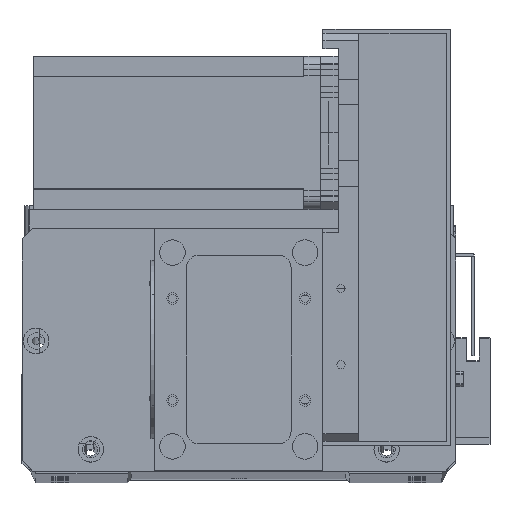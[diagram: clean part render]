
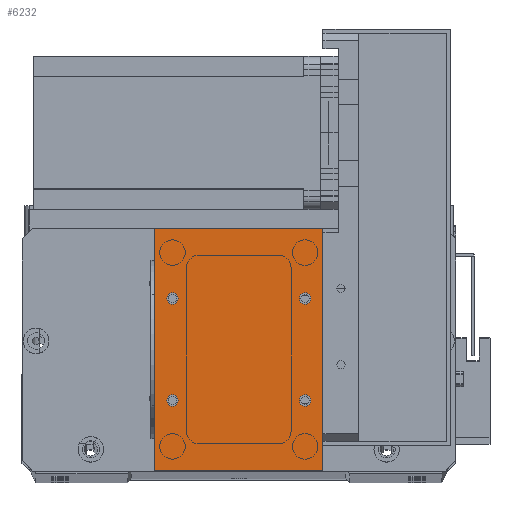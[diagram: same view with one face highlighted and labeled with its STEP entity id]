
A CAD part, top view. The second image highlights one B-rep face of the part: STEP entity #6232.
In plain terms, the highlighted planar face has unit normal (0, 0, 1).
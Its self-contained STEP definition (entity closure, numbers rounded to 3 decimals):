
#6 = VECTOR ( 'NONE', #32777, 1000. ) ;
#486 = EDGE_CURVE ( 'NONE', #4276, #13556, #23612, .T. ) ;
#727 = ORIENTED_EDGE ( 'NONE', *, *, #31625, .F. ) ;
#1019 = CARTESIAN_POINT ( 'NONE',  ( 66., 0., 2. ) ) ;
#1243 = AXIS2_PLACEMENT_3D ( 'NONE', #30220, #14865, #32776 ) ;
#1436 = ORIENTED_EDGE ( 'NONE', *, *, #11743, .F. ) ;
#1953 = VERTEX_POINT ( 'NONE', #3938 ) ;
#2109 = DIRECTION ( 'NONE',  ( -1., 0., 0. ) ) ;
#2160 = VERTEX_POINT ( 'NONE', #28035 ) ;
#2195 = DIRECTION ( 'NONE',  ( 0., 0., 1. ) ) ;
#2208 = DIRECTION ( 'NONE',  ( 0., 0., 1. ) ) ;
#2419 = CARTESIAN_POINT ( 'NONE',  ( 0., 0., 2. ) ) ;
#3750 = VECTOR ( 'NONE', #8700, 1000. ) ;
#3938 = CARTESIAN_POINT ( 'NONE',  ( 4.75, 67.5, 2. ) ) ;
#4276 = VERTEX_POINT ( 'NONE', #20052 ) ;
#4865 = FACE_OUTER_BOUND ( 'NONE', #15801, .T. ) ;
#5180 = CARTESIAN_POINT ( 'NONE',  ( 66., 0., 2. ) ) ;
#5561 = AXIS2_PLACEMENT_3D ( 'NONE', #23725, #8396, #26328 ) ;
#5643 = ORIENTED_EDGE ( 'NONE', *, *, #23704, .F. ) ;
#6232 = ADVANCED_FACE ( 'NONE', ( #31394, #10957, #24574, #17738, #4865 ), #28135, .F. ) ;
#6913 = CARTESIAN_POINT ( 'NONE',  ( 7., 67.5, 2. ) ) ;
#7682 = LINE ( 'NONE', #27635, #6 ) ;
#7706 = EDGE_CURVE ( 'NONE', #22092, #32349, #7682, .T. ) ;
#7904 = CIRCLE ( 'NONE', #9744, 2.25 ) ;
#8329 = ORIENTED_EDGE ( 'NONE', *, *, #32549, .F. ) ;
#8396 = DIRECTION ( 'NONE',  ( 0., 0., 1. ) ) ;
#8700 = DIRECTION ( 'NONE',  ( 0., 1., 0. ) ) ;
#8885 = CARTESIAN_POINT ( 'NONE',  ( 7., 27.5, 2. ) ) ;
#8931 = CARTESIAN_POINT ( 'NONE',  ( 59., 67.5, 2. ) ) ;
#9040 = CIRCLE ( 'NONE', #31813, 2.25 ) ;
#9076 = DIRECTION ( 'NONE',  ( 0., -1., 0. ) ) ;
#9555 = DIRECTION ( 'NONE',  ( 1., 0., 0. ) ) ;
#9744 = AXIS2_PLACEMENT_3D ( 'NONE', #8885, #26816, #11448 ) ;
#9836 = ORIENTED_EDGE ( 'NONE', *, *, #486, .F. ) ;
#9883 = AXIS2_PLACEMENT_3D ( 'NONE', #17574, #2195, #20150 ) ;
#10774 = CARTESIAN_POINT ( 'NONE',  ( 61.25, 27.5, 2. ) ) ;
#10957 = FACE_BOUND ( 'NONE', #13059, .T. ) ;
#11122 = VERTEX_POINT ( 'NONE', #32818 ) ;
#11187 = DIRECTION ( 'NONE',  ( 1., 0., 0. ) ) ;
#11448 = DIRECTION ( 'NONE',  ( 1., 0., 0. ) ) ;
#11489 = DIRECTION ( 'NONE',  ( 1., 0., 0. ) ) ;
#11743 = EDGE_CURVE ( 'NONE', #29201, #2160, #27178, .T. ) ;
#11981 = CARTESIAN_POINT ( 'NONE',  ( 0., 0., 2. ) ) ;
#12331 = AXIS2_PLACEMENT_3D ( 'NONE', #17594, #2208, #20164 ) ;
#13059 = EDGE_LOOP ( 'NONE', ( #1436, #8329 ) ) ;
#13484 = CARTESIAN_POINT ( 'NONE',  ( 9.25, 67.5, 2. ) ) ;
#13556 = VERTEX_POINT ( 'NONE', #10774 ) ;
#14283 = CARTESIAN_POINT ( 'NONE',  ( 0., 95., 2. ) ) ;
#14346 = EDGE_CURVE ( 'NONE', #32349, #17463, #15840, .T. ) ;
#14473 = VERTEX_POINT ( 'NONE', #14283 ) ;
#14865 = DIRECTION ( 'NONE',  ( 0., 0., 1. ) ) ;
#15516 = CARTESIAN_POINT ( 'NONE',  ( 66., 95., 2. ) ) ;
#15801 = EDGE_LOOP ( 'NONE', ( #19715, #30863, #22805, #24426 ) ) ;
#15840 = LINE ( 'NONE', #1019, #3750 ) ;
#16540 = ORIENTED_EDGE ( 'NONE', *, *, #18014, .F. ) ;
#17463 = VERTEX_POINT ( 'NONE', #15516 ) ;
#17574 = CARTESIAN_POINT ( 'NONE',  ( 7., 67.5, 2. ) ) ;
#17594 = CARTESIAN_POINT ( 'NONE',  ( 7., 27.5, 2. ) ) ;
#17738 = FACE_BOUND ( 'NONE', #29796, .T. ) ;
#18014 = EDGE_CURVE ( 'NONE', #11122, #19038, #25225, .T. ) ;
#18929 = CARTESIAN_POINT ( 'NONE',  ( 4.75, 27.5, 2. ) ) ;
#19038 = VERTEX_POINT ( 'NONE', #18929 ) ;
#19661 = AXIS2_PLACEMENT_3D ( 'NONE', #2419, #30609, #33279 ) ;
#19715 = ORIENTED_EDGE ( 'NONE', *, *, #30253, .T. ) ;
#20052 = CARTESIAN_POINT ( 'NONE',  ( 56.75, 27.5, 2. ) ) ;
#20150 = DIRECTION ( 'NONE',  ( 1., 0., 0. ) ) ;
#20164 = DIRECTION ( 'NONE',  ( 1., 0., 0. ) ) ;
#20169 = VERTEX_POINT ( 'NONE', #13484 ) ;
#20985 = VECTOR ( 'NONE', #2109, 1000. ) ;
#21156 = LINE ( 'NONE', #27001, #33204 ) ;
#21577 = EDGE_CURVE ( 'NONE', #17463, #14473, #27821, .T. ) ;
#22092 = VERTEX_POINT ( 'NONE', #11981 ) ;
#22356 = EDGE_LOOP ( 'NONE', ( #28706, #727 ) ) ;
#22805 = ORIENTED_EDGE ( 'NONE', *, *, #14346, .T. ) ;
#23612 = CIRCLE ( 'NONE', #30607, 2.25 ) ;
#23704 = EDGE_CURVE ( 'NONE', #19038, #11122, #7904, .T. ) ;
#23725 = CARTESIAN_POINT ( 'NONE',  ( 59., 27.5, 2. ) ) ;
#24056 = EDGE_LOOP ( 'NONE', ( #26881, #9836 ) ) ;
#24426 = ORIENTED_EDGE ( 'NONE', *, *, #21577, .T. ) ;
#24574 = FACE_BOUND ( 'NONE', #24056, .T. ) ;
#24884 = DIRECTION ( 'NONE',  ( 0., 0., 1. ) ) ;
#24984 = CARTESIAN_POINT ( 'NONE',  ( 61.25, 67.5, 2. ) ) ;
#25225 = CIRCLE ( 'NONE', #12331, 2.25 ) ;
#25641 = CIRCLE ( 'NONE', #9883, 2.25 ) ;
#26314 = CIRCLE ( 'NONE', #32643, 2.25 ) ;
#26328 = DIRECTION ( 'NONE',  ( 1., 0., 0. ) ) ;
#26816 = DIRECTION ( 'NONE',  ( 0., 0., 1. ) ) ;
#26859 = DIRECTION ( 'NONE',  ( 0., 0., 1. ) ) ;
#26881 = ORIENTED_EDGE ( 'NONE', *, *, #31845, .F. ) ;
#27001 = CARTESIAN_POINT ( 'NONE',  ( 0., 0., 2. ) ) ;
#27178 = CIRCLE ( 'NONE', #1243, 2.25 ) ;
#27486 = CARTESIAN_POINT ( 'NONE',  ( 59., 27.5, 2. ) ) ;
#27493 = CIRCLE ( 'NONE', #5561, 2.25 ) ;
#27635 = CARTESIAN_POINT ( 'NONE',  ( 0., 0., 2. ) ) ;
#27821 = LINE ( 'NONE', #32859, #20985 ) ;
#28035 = CARTESIAN_POINT ( 'NONE',  ( 56.75, 67.5, 2. ) ) ;
#28135 = PLANE ( 'NONE',  #19661 ) ;
#28706 = ORIENTED_EDGE ( 'NONE', *, *, #29810, .F. ) ;
#29201 = VERTEX_POINT ( 'NONE', #24984 ) ;
#29796 = EDGE_LOOP ( 'NONE', ( #16540, #5643 ) ) ;
#29810 = EDGE_CURVE ( 'NONE', #20169, #1953, #25641, .T. ) ;
#30220 = CARTESIAN_POINT ( 'NONE',  ( 59., 67.5, 2. ) ) ;
#30253 = EDGE_CURVE ( 'NONE', #14473, #22092, #21156, .T. ) ;
#30607 = AXIS2_PLACEMENT_3D ( 'NONE', #27486, #31797, #11187 ) ;
#30609 = DIRECTION ( 'NONE',  ( 0., 0., -1. ) ) ;
#30863 = ORIENTED_EDGE ( 'NONE', *, *, #7706, .T. ) ;
#31394 = FACE_BOUND ( 'NONE', #22356, .T. ) ;
#31625 = EDGE_CURVE ( 'NONE', #1953, #20169, #26314, .T. ) ;
#31797 = DIRECTION ( 'NONE',  ( 0., 0., 1. ) ) ;
#31813 = AXIS2_PLACEMENT_3D ( 'NONE', #8931, #26859, #11489 ) ;
#31845 = EDGE_CURVE ( 'NONE', #13556, #4276, #27493, .T. ) ;
#32349 = VERTEX_POINT ( 'NONE', #5180 ) ;
#32549 = EDGE_CURVE ( 'NONE', #2160, #29201, #9040, .T. ) ;
#32643 = AXIS2_PLACEMENT_3D ( 'NONE', #6913, #24884, #9555 ) ;
#32776 = DIRECTION ( 'NONE',  ( 1., 0., 0. ) ) ;
#32777 = DIRECTION ( 'NONE',  ( 1., 0., 0. ) ) ;
#32818 = CARTESIAN_POINT ( 'NONE',  ( 9.25, 27.5, 2. ) ) ;
#32859 = CARTESIAN_POINT ( 'NONE',  ( 0., 95., 2. ) ) ;
#33204 = VECTOR ( 'NONE', #9076, 1000. ) ;
#33279 = DIRECTION ( 'NONE',  ( -1., 0., 0. ) ) ;
